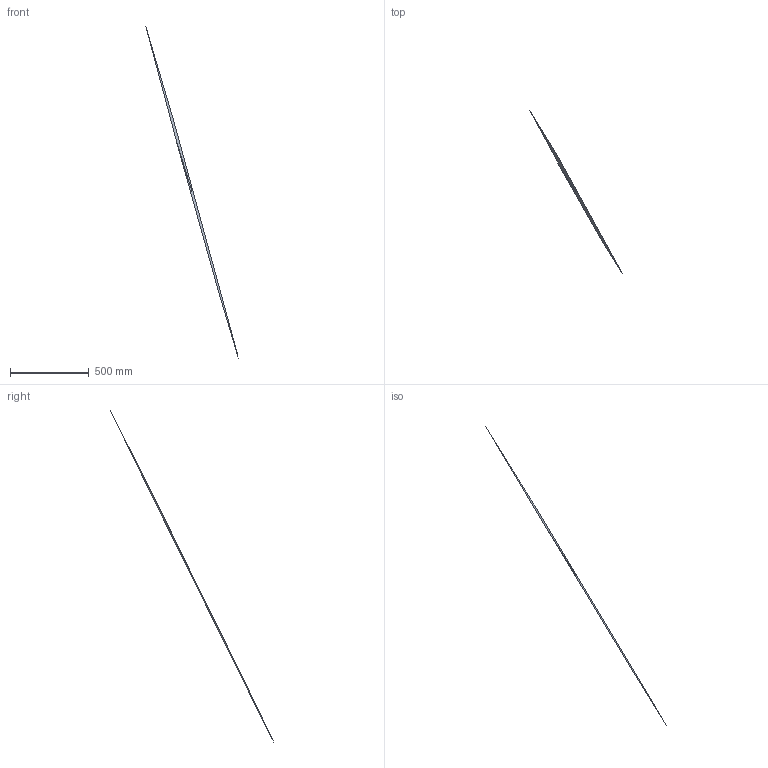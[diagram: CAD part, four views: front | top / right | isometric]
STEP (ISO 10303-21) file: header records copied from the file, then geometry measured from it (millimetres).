
FILE_DESCRIPTION(('BRL-CAD AP214 eccentric ellipse arc fixture'),'2;1');
FILE_NAME('ap214_eccentric_ellipse_arc.stp','2026-07-23T00:00:00',('BRL-CAD'),('BRL-CAD'),'','','');
FILE_SCHEMA(('AUTOMOTIVE_DESIGN { 1 0 10303 214 3 1 1 1 }'));
Length unit declared in the file: millimetre
Products named in the file (1): eccentric_ellipse_arc
Bounding box: 585.17 x 1033.62 x 2103.28 mm (x, y, z)
Surface area: 43778.9 mm2 (no closed solid volume)
Topology: 0 solids, 1 shells, 1 faces, 3 edges, 3 vertices
Faces by surface type: plane 1
Entity records: 35 total; most frequent: CARTESIAN_POINT 3, VERTEX_POINT 3, EDGE_CURVE 3, ORIENTED_EDGE 3, DIRECTION 2, B_SPLINE_CURVE_WITH_KNOTS 2, AXIS2_PLACEMENT_3D 1, ELLIPSE 1
